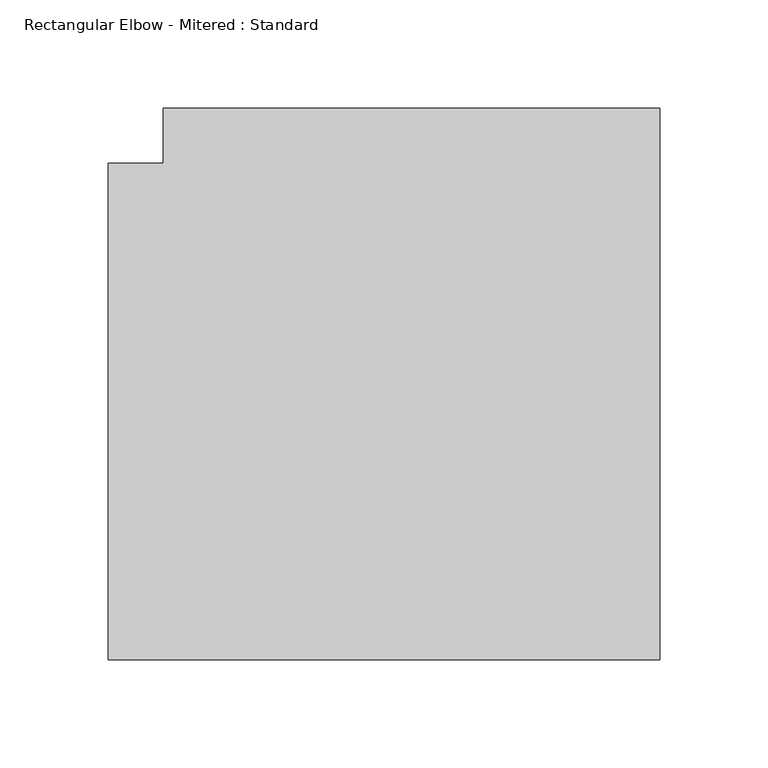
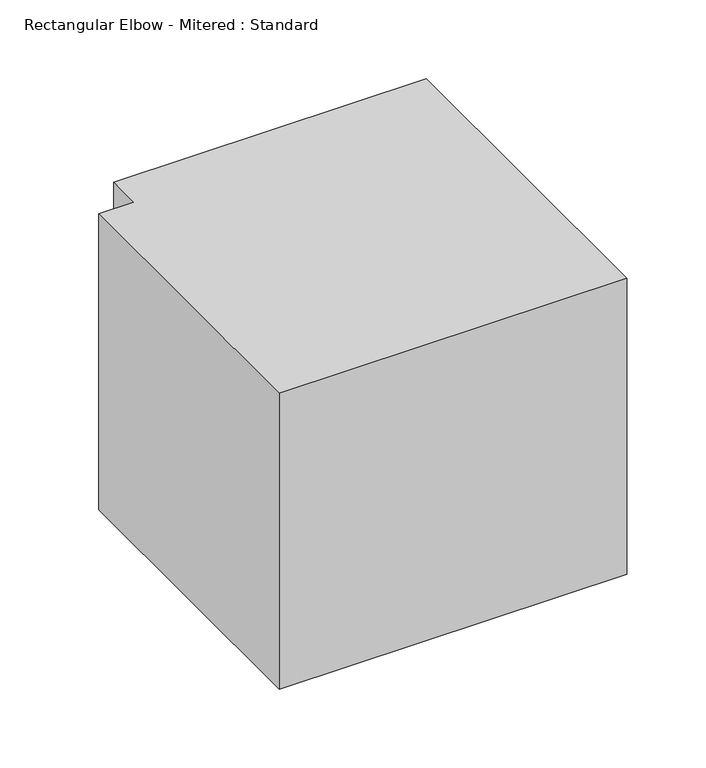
"""IFC4 building model written with IfcOpenShell, lengths in millimetres: duct fitting geometry, Rectangular Elbow - Mitered : Standard."""

from ifc_helpers import new_model, si_unit, frame, origin, place, context, project, spatial, polyline, outline, extrude, source, transform, mapped, element, save


def rectangular_elbow_mitered_standard_02695c2b(model_context):
    return source(origin(), model_context, "Body", "SweptSolid", [
        extrude(outline(polyline([(-139.9, -114.5), (-139.9, 114.5), (-114.5, 114.5), (-114.5, 139.9), (114.5, 139.9), (114.5, -114.5), (-139.9, -114.5)])), frame((0.0, 0.0, -114.5), z_axis=(0.0, 0.0, 1.0), x_axis=(1.0, 0.0, 0.0)), (0.0, 0.0, 1.0), 229.0),
    ])


if __name__ == "__main__":
    model = new_model("IFC4")
    model_context = context("Model", 3, world=origin())
    ifc_project = project(units=[si_unit("LENGTHUNIT", "METRE", prefix="MILLI")], contexts=[model_context])
    site = spatial("IfcSite", under=ifc_project)
    building = spatial("IfcBuilding", under=site)
    placement = place(None, origin())
    rectangular_elbow_mitered_standard_shape = rectangular_elbow_mitered_standard_02695c2b(model_context)
    element("IfcDuctFitting", 1, ObjectType="Rectangular Elbow - Mitered : Standard", at=placement, inside=building, context=model_context, shape_type="MappedRepresentation", body=[
        mapped(rectangular_elbow_mitered_standard_shape, transform((0.0, 0.0, 0.0), x_axis=(1.0, 0.0, 0.0), y_axis=(0.0, 1.0, 0.0), z_axis=(0.0, 0.0, 1.0))),
    ])
    save(model, "model.ifc")
